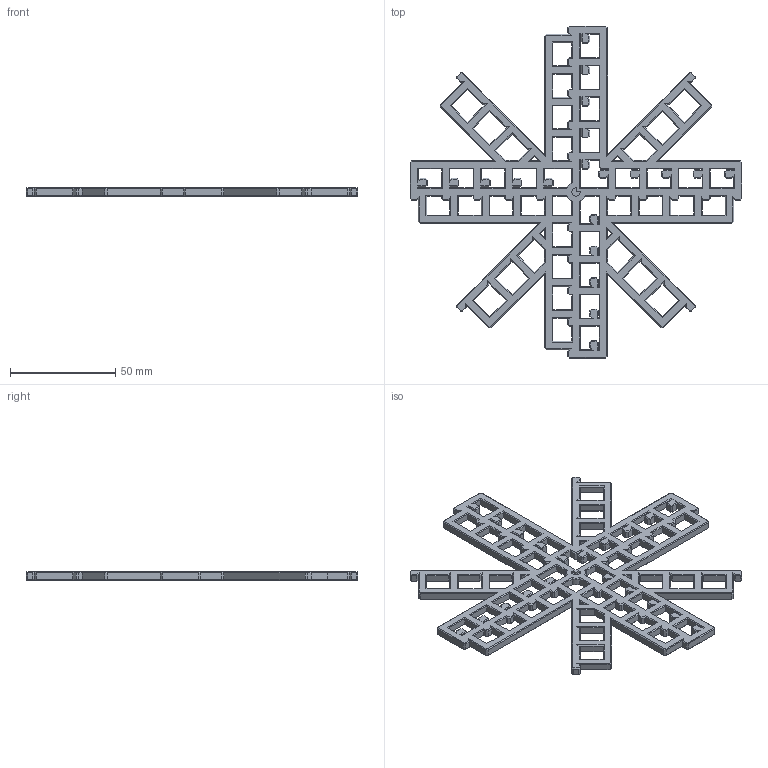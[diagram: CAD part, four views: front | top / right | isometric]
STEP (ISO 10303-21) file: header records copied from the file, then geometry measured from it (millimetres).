
FILE_DESCRIPTION(('Open CASCADE Model'),'2;1');
FILE_NAME('Open CASCADE Shape Model','2024-03-23T13:09:22',('Author'),( 'Open CASCADE'),'Open CASCADE STEP processor 7.7','Open CASCADE 7.7' ,'Unknown');
FILE_SCHEMA(('AUTOMOTIVE_DESIGN { 1 0 10303 214 1 1 1 1 }'));
Products named in the file (1): Open CASCADE STEP translator 7.7 147
Bounding box: 158 x 158 x 4 mm (x, y, z)
Volume: 28827 mm3; surface area: 25999 mm2
Topology: 1 solids, 1 shells, 1512 faces, 3523 edges, 2014 vertices
Faces by surface type: plane 1502, cone 6, cylinder 4
Entity records: 86538 total; most frequent: CARTESIAN_POINT 14525, DIRECTION 13257, LINE 10172, VECTOR 10172, ORIENTED_EDGE 7046, PCURVE 7046, DEFINITIONAL_REPRESENTATION 7046, EDGE_CURVE 3523
